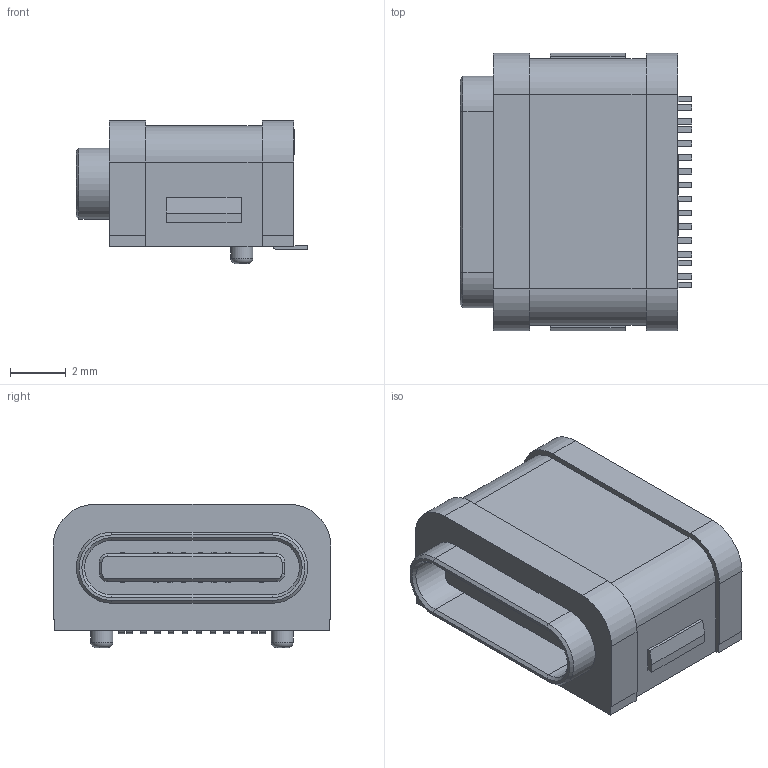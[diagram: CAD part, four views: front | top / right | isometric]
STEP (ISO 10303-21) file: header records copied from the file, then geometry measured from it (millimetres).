
FILE_DESCRIPTION(/* description */ ('STEP AP242 Edition 2','CAx-IF Rec.Pracs.---Representation and Presentation of Product Manufacturing Information (PMI)---4.0---2014-10-13','CAx-IF Rec.Pracs.---3D Tessellated Geometry---0.4---2014-09-14','2;1','CAx-IF Rec.Pracs.---User Defined Attributes---1.5---2016-08-15'),/* implementation_level */ '2;1');
FILE_NAME(/* name */ 'Assembly 1 - USB-C-SMD_MUP-U20409-2~USB-C-SMD_MUP-U20409-2~nxQB',/* time_stamp */ '2026-04-02T09:55:30Z',/* author */ (''),/* organization */ (''),/* preprocessor_version */ 'ST-DEVELOPER v20',/* originating_system */ 'ONSHAPE BY PTC INC, 1.212',/* authorisation */ ' ');
FILE_SCHEMA (('AP242_MANAGED_MODEL_BASED_3D_ENGINEERING_MIM_LF { 1 0 10303 442 3 1 4 }'));
Length unit declared in the file: metre
Products named in the file (1): USB-C-SMD_MUP-U20409-2~USB-C-SMD_MUP-U20409-2~nxQB
Bounding box: 8.35 x 10 x 5.16 mm (x, y, z)
Volume: 262.6 mm3; surface area: 463.6 mm2
Topology: 1 solids, 1 shells, 465 faces, 1304 edges, 863 vertices
Faces by surface type: plane 328, cylinder 100, sphere 15, bspline 12, cone 8, torus 2
Full cylindrical faces by diameter (mm): 0.8 x2
Entity records: 18201 total; most frequent: CARTESIAN_POINT 3013, ORIENTED_EDGE 2578, DIRECTION 2333, EDGE_CURVE 1289, LINE 941, VECTOR 941, VERTEX_POINT 856, AXIS2_PLACEMENT_3D 696
